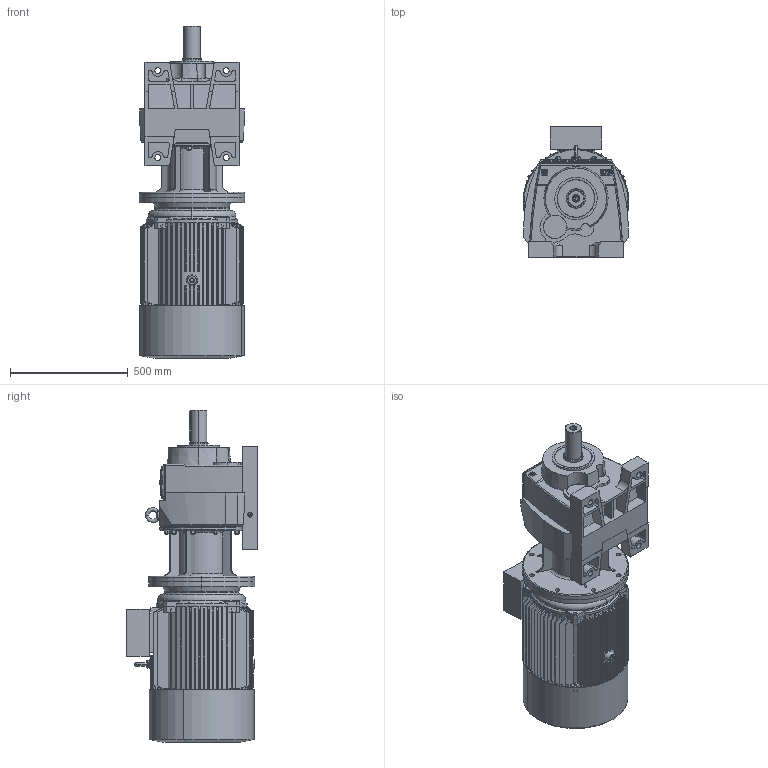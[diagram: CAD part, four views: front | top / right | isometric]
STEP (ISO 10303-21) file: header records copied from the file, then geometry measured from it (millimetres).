
FILE_DESCRIPTION (( 'STEP AP203' ), '1' );
FILE_NAME ('MV672-MV673-M3-225S-4.STEP', '2019-07-24T12:14:29', ( '' ), ( '' ), 'SwSTEP 2.0', 'SolidWorks 2012', '' );
FILE_SCHEMA (( 'CONFIG_CONTROL_DESIGN' ));
Length unit declared in the file: millimetre
Products named in the file (12): shaft_225-4; MV672-MV673-M3-225S-4; M3-225S-4p-FF-B5; 225-2-ª+-_-++ñ; Eyebolts GB_GB_FASTENER_SCREWS_FRS M16-N; Y2-200-4.6.8+ª-¯ª­-È®+_-++ñ; Y2-225+¦i-_-++ñ; MN_67_3_0_A-B22_B5_ML6A_0_0_0_0_0_0_0_0_0_0_0_0_M1; 63225B5_Varsayìlan; Y2-225SB5+À+¿_-++ñ; ML6A_Varsayìlan; M673_Varsayìlan
Assembly tree (11 placements, depth 3):
  MV672-MV673-M3-225S-4
    MN_67_3_0_A-B22_B5_ML6A_0_0_0_0_0_0_0_0_0_0_0_0_M1
      M673_Varsayìlan
      63225B5_Varsayìlan
      ML6A_Varsayìlan
    M3-225S-4p-FF-B5
      Y2-225SB5+À+¿_-++ñ
      Eyebolts GB_GB_FASTENER_SCREWS_FRS M16-N
      Y2-200-4.6.8+ª-¯ª­-È®+_-++ñ
      225-2-ª+-_-++ñ
      Y2-225+¦i-_-++ñ
      shaft_225-4
Bounding box: 450 x 557.3 x 1412.5 mm (x, y, z)
Volume: 72769996.2 mm3; surface area: 5887608.1 mm2
Topology: 11 solids, 11 shells, 1956 faces, 4955 edges, 3128 vertices
Faces by surface type: plane 775, cylinder 508, cone 488, bspline 160, torus 25
Entity records: 80328 total; most frequent: CARTESIAN_POINT 34318, ORIENTED_EDGE 9880, DIRECTION 8505, EDGE_CURVE 4940, AXIS2_PLACEMENT_3D 3189, VERTEX_POINT 3128, EDGE_LOOP 2172, LINE 2127
